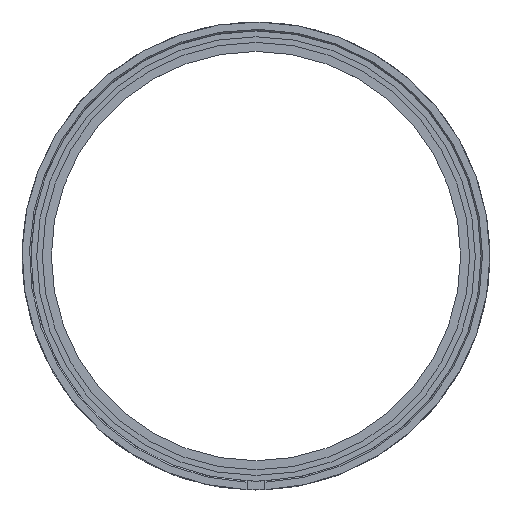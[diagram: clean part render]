
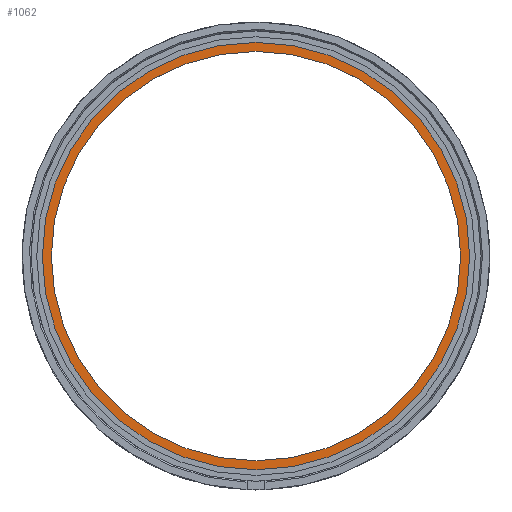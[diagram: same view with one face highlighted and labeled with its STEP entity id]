
A CAD part, top view. The second image highlights one B-rep face of the part: STEP entity #1062.
In plain terms, the highlighted planar face has unit normal (0, 0, 1).
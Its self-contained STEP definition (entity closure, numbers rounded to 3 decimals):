
#1017 = VERTEX_POINT('',#1018);
#1018 = CARTESIAN_POINT('',(95.,0.,-19.));
#1026 = EDGE_CURVE('',#1017,#1017,#1027,.T.);
#1027 = CIRCLE('',#1028,95.);
#1028 = AXIS2_PLACEMENT_3D('',#1029,#1030,#1031);
#1029 = CARTESIAN_POINT('',(0.,0.,-19.));
#1030 = DIRECTION('',(0.,0.,1.));
#1031 = DIRECTION('',(1.,0.,0.));
#1062 = ADVANCED_FACE('',(#1063,#1066),#1077,.T.);
#1063 = FACE_BOUND('',#1064,.T.);
#1064 = EDGE_LOOP('',(#1065));
#1065 = ORIENTED_EDGE('',*,*,#1026,.T.);
#1066 = FACE_BOUND('',#1067,.T.);
#1067 = EDGE_LOOP('',(#1068));
#1068 = ORIENTED_EDGE('',*,*,#1069,.F.);
#1069 = EDGE_CURVE('',#1070,#1070,#1072,.T.);
#1070 = VERTEX_POINT('',#1071);
#1071 = CARTESIAN_POINT('',(91.,0.,-19.));
#1072 = CIRCLE('',#1073,91.);
#1073 = AXIS2_PLACEMENT_3D('',#1074,#1075,#1076);
#1074 = CARTESIAN_POINT('',(0.,0.,-19.));
#1075 = DIRECTION('',(0.,0.,1.));
#1076 = DIRECTION('',(1.,0.,0.));
#1077 = PLANE('',#1078);
#1078 = AXIS2_PLACEMENT_3D('',#1079,#1080,#1081);
#1079 = CARTESIAN_POINT('',(0.,0.,-19.));
#1080 = DIRECTION('',(0.,0.,1.));
#1081 = DIRECTION('',(1.,0.,0.));
